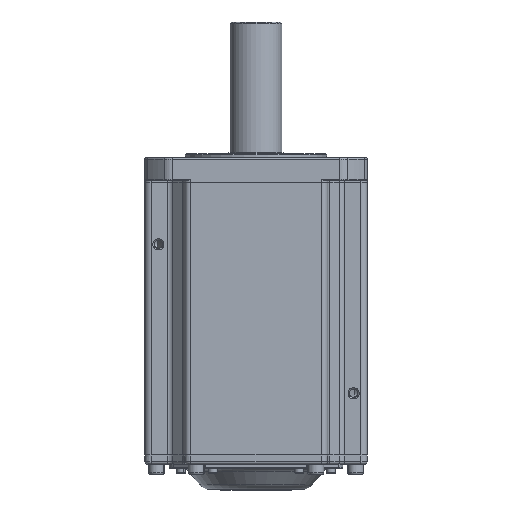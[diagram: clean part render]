
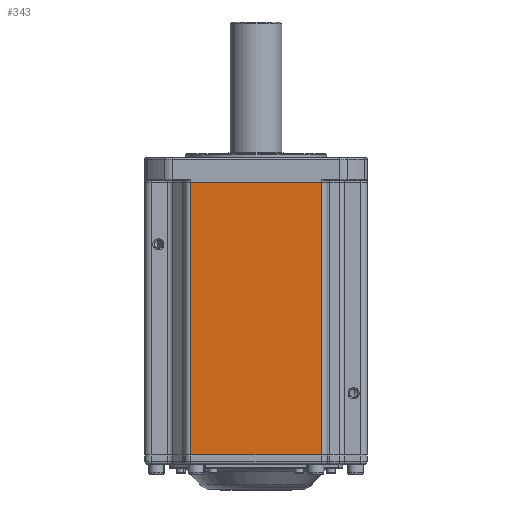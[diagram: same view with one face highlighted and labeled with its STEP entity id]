
A CAD part, front view. The second image highlights one B-rep face of the part: STEP entity #343.
In plain terms, the highlighted planar face has unit normal (0, -1, 0).
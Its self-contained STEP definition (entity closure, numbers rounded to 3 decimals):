
#343 = ADVANCED_FACE ( 'NONE', ( #58980 ), #29179, .F. ) ;
#836 = EDGE_CURVE ( 'NONE', #34941, #21178, #18751, .T. ) ;
#1089 = VECTOR ( 'NONE', #55277, 1000. ) ;
#6486 = CARTESIAN_POINT ( 'NONE',  ( 58.026, -89.007, 103.327 ) ) ;
#11191 = VECTOR ( 'NONE', #15987, 1000. ) ;
#12908 = ORIENTED_EDGE ( 'NONE', *, *, #836, .T. ) ;
#13861 = CARTESIAN_POINT ( 'NONE',  ( -154.318, -89.007, -117.273 ) ) ;
#15255 = EDGE_CURVE ( 'NONE', #21178, #62408, #15566, .T. ) ;
#15566 = LINE ( 'NONE', #6486, #11191 ) ;
#15987 = DIRECTION ( 'NONE',  ( -1., 0., 0. ) ) ;
#18530 = EDGE_CURVE ( 'NONE', #62408, #50894, #45184, .T. ) ;
#18751 = LINE ( 'NONE', #37150, #38872 ) ;
#20023 = EDGE_CURVE ( 'NONE', #50894, #34941, #59770, .T. ) ;
#21178 = VERTEX_POINT ( 'NONE', #41029 ) ;
#23949 = CARTESIAN_POINT ( 'NONE',  ( 58.026, -89.007, -896.673 ) ) ;
#25664 = CARTESIAN_POINT ( 'NONE',  ( 53.026, -89.007, -117.273 ) ) ;
#27402 = DIRECTION ( 'NONE',  ( 0., 0., 1. ) ) ;
#28749 = DIRECTION ( 'NONE',  ( 0., 0., -1. ) ) ;
#29179 = PLANE ( 'NONE',  #58619 ) ;
#31504 = ORIENTED_EDGE ( 'NONE', *, *, #15255, .T. ) ;
#32033 = CARTESIAN_POINT ( 'NONE',  ( -52.974, -89.007, -117.273 ) ) ;
#33506 = DIRECTION ( 'NONE',  ( 0., 1., 0. ) ) ;
#34941 = VERTEX_POINT ( 'NONE', #25664 ) ;
#37150 = CARTESIAN_POINT ( 'NONE',  ( 53.026, -89.007, -896.673 ) ) ;
#38872 = VECTOR ( 'NONE', #27402, 1000. ) ;
#39264 = CARTESIAN_POINT ( 'NONE',  ( -52.974, -89.007, -896.673 ) ) ;
#41029 = CARTESIAN_POINT ( 'NONE',  ( 53.026, -89.007, 103.327 ) ) ;
#42139 = CARTESIAN_POINT ( 'NONE',  ( -52.974, -89.007, 103.327 ) ) ;
#43432 = VECTOR ( 'NONE', #48484, 1000. ) ;
#45184 = LINE ( 'NONE', #39264, #1089 ) ;
#48484 = DIRECTION ( 'NONE',  ( 1., 0., 0. ) ) ;
#50894 = VERTEX_POINT ( 'NONE', #32033 ) ;
#52897 = EDGE_LOOP ( 'NONE', ( #63041, #62005, #12908, #31504 ) ) ;
#55277 = DIRECTION ( 'NONE',  ( 0., 0., -1. ) ) ;
#58619 = AXIS2_PLACEMENT_3D ( 'NONE', #23949, #33506, #28749 ) ;
#58980 = FACE_OUTER_BOUND ( 'NONE', #52897, .T. ) ;
#59770 = LINE ( 'NONE', #13861, #43432 ) ;
#62005 = ORIENTED_EDGE ( 'NONE', *, *, #20023, .T. ) ;
#62408 = VERTEX_POINT ( 'NONE', #42139 ) ;
#63041 = ORIENTED_EDGE ( 'NONE', *, *, #18530, .T. ) ;
